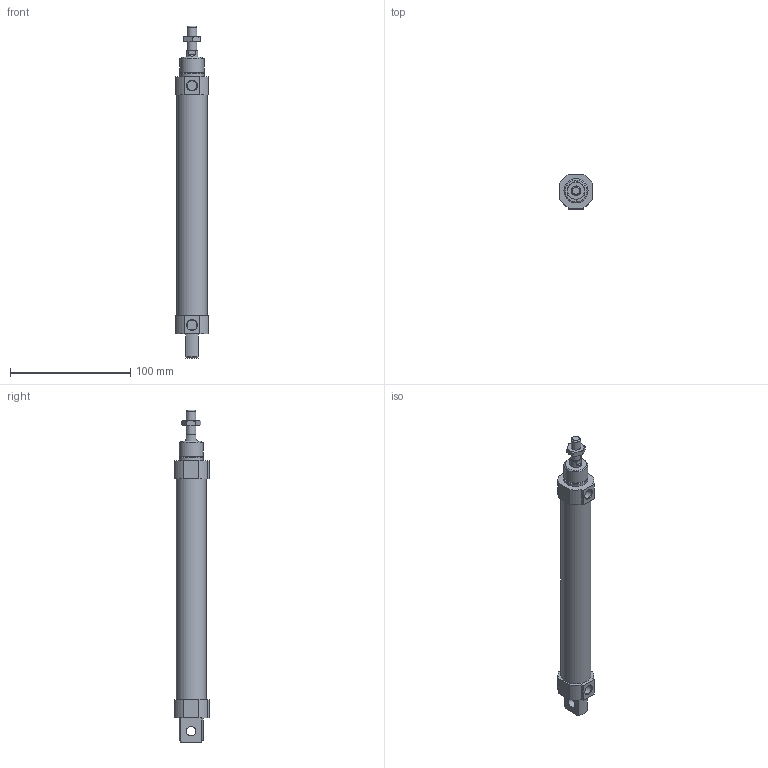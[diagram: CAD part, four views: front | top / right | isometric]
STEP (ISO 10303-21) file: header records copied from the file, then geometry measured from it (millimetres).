
FILE_DESCRIPTION((''),'2;1');
FILE_NAME('I:\3D電子目錄\氣缸\FDA\FDA\FDA\FDA20\FDA20x150.stp','2007-10-16T09:53:16',('66-2f-008'),(''),'Autodesk Inventor 11','Autodesk Inventor 11','');
FILE_SCHEMA(('AUTOMOTIVE_DESIGN { 1 0 10303 214 1 1 1 1 }'));
Length unit declared in the file: millimetre
Products named in the file (1): FDA20
Bounding box: 27 x 28.5 x 276 mm (x, y, z)
Volume: 119902.5 mm3; surface area: 22639.7 mm2
Topology: 1 solids, 1 shells, 77 faces, 178 edges, 112 vertices
Faces by surface type: plane 37, cone 20, cylinder 19, torus 1
Full cylindrical faces by diameter (mm): 8 x5, 10 x1, 20 x2, 25 x1
Entity records: 2081 total; most frequent: CARTESIAN_POINT 414, DIRECTION 348, ORIENTED_EDGE 324, EDGE_CURVE 162, AXIS2_PLACEMENT_3D 140, VERTEX_POINT 110, EDGE_LOOP 102, FACE_OUTER_BOUND 77
